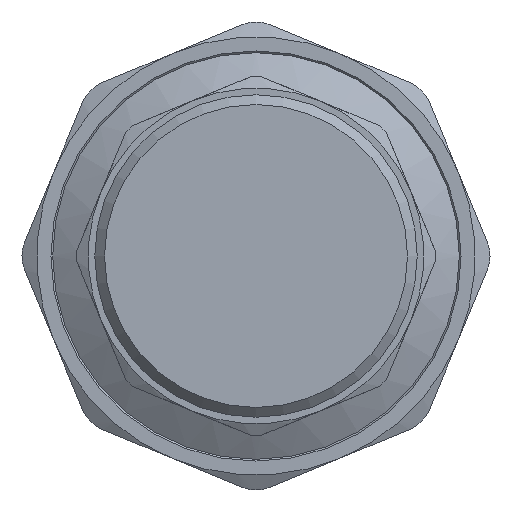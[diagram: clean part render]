
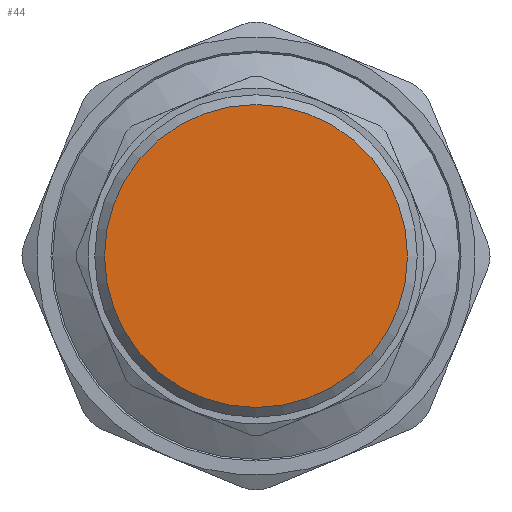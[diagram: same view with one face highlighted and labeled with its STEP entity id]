
A CAD part, front view. The second image highlights one B-rep face of the part: STEP entity #44.
In plain terms, the highlighted planar face has unit normal (0, -1, 0).
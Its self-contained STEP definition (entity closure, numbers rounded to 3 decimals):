
#44=ADVANCED_FACE('',(#121),#123,.F.);
#121=FACE_BOUND('',#122,.T.);
#122=EDGE_LOOP('',(#688));
#123=PLANE('',#124);
#124=AXIS2_PLACEMENT_3D('',#125,#126,#127);
#125=CARTESIAN_POINT('',(0.,0.,0.));
#126=DIRECTION('',(0.,1.,0.));
#127=DIRECTION('',(-1.,0.,0.));
#688=ORIENTED_EDGE('',*,*,#1028,.F.);
#1028=EDGE_CURVE('',#1198,#1198,#1199,.T.);
#1198=VERTEX_POINT('',#1477);
#1199=CIRCLE('',#1478,28.007);
#1477=CARTESIAN_POINT('',(-28.007,0.,0.));
#1478=AXIS2_PLACEMENT_3D('',#1479,#1480,#1481);
#1479=CARTESIAN_POINT('',(0.,0.,0.));
#1480=DIRECTION('',(0.,1.,0.));
#1481=DIRECTION('',(-1.,0.,0.));
